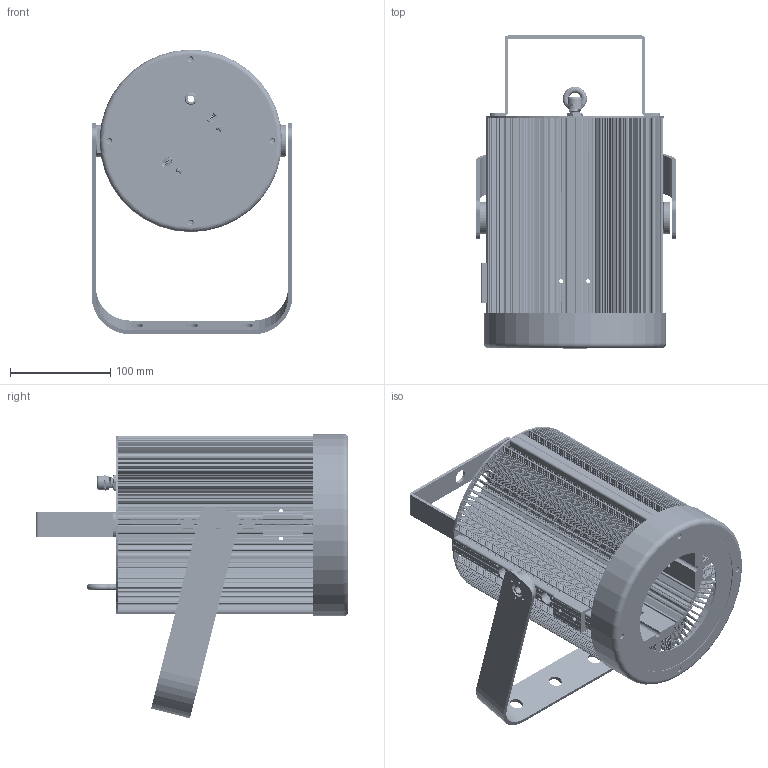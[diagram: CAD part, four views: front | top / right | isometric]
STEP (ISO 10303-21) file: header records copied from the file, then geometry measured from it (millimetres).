
FILE_DESCRIPTION (( 'STEP AP214' ), '1' );
FILE_NAME ('定制场灯（无折菲）.STEP', '2025-07-28T00:54:29', ( '' ), ( '' ), 'SwSTEP 2.0', 'SolidWorks 2023', '' );
FILE_SCHEMA (( 'AUTOMOTIVE_DESIGN' ));
Length unit declared in the file: millimetre
Products named in the file (23): DT-0_^CD-B_ASM_cd-b0626_asm(2)_定制场灯; M12 Kablo Rakoru.stp; M3X10-0001^200W0001_ASM_CD-B_ASM_cd-b0626_asm(2)_定制场灯; QGB-4_^CD-B_ASM_cd-b0626_asm(2)_定制场灯; 20001^200W0001_ASM_CD-B_ASM_cd-b0626_asm(2)_定制场灯; M3X12-0001^200W0001_ASM_CD-B_ASM_cd-b0626_asm(2)_定制场灯; TS-41_^CD-B_ASM_cd-b0626_asm(2)_定制场灯; JQ-44^CD-B_ASM_cd-b0626_asm(2)_定制场灯; TISHOU2^CD-B_ASM_cd-b0626_asm(2)_定制场灯; 零件1^定制场灯; CL-TS_^CD-B_ASM_cd-b0626_asm(2)_定制场灯; LZ-24^CD-B_ASM_cd-b0626_asm(2)_定制场灯; LZ-48_^CD-B_ASM_cd-b0626_asm(2)_定制场灯; 200W0001_ASM^CD-B_ASM_cd-b0626_asm(2)_定制场灯; HK-18_^CD-B_ASM_cd-b0626_asm(2)_定制场灯; 000^CD-B_ASM_cd-b0626_asm(2)_定制场灯; 定制场灯（无折菲）; cd-b0626_asm(2)^定制场灯; M3X4-0001^200W0001_ASM_CD-B_ASM_cd-b0626_asm(2)_定制场灯; K3-W_^CD-B_ASM_cd-b0626_asm(2)_定制场灯; DH-6^CD-B_ASM_cd-b0626_asm(2)_定制场灯; 10001^200W0001_ASM_CD-B_ASM_cd-b0626_asm(2)_定制场灯; CD-B_ASM^cd-b0626_asm(2)_定制场灯
Assembly tree (29 placements, depth 5):
  定制场灯（无折菲）
    cd-b0626_asm(2)^定制场灯
      CD-B_ASM^cd-b0626_asm(2)_定制场灯
        200W0001_ASM^CD-B_ASM_cd-b0626_asm(2)_定制场灯
          M3X4-0001^200W0001_ASM_CD-B_ASM_cd-b0626_asm(2)_定制场灯  x4
          10001^200W0001_ASM_CD-B_ASM_cd-b0626_asm(2)_定制场灯
          20001^200W0001_ASM_CD-B_ASM_cd-b0626_asm(2)_定制场灯
          M3X12-0001^200W0001_ASM_CD-B_ASM_cd-b0626_asm(2)_定制场灯
          M3X10-0001^200W0001_ASM_CD-B_ASM_cd-b0626_asm(2)_定制场灯
        DT-0_^CD-B_ASM_cd-b0626_asm(2)_定制场灯  x2
        000^CD-B_ASM_cd-b0626_asm(2)_定制场灯
        LZ-48_^CD-B_ASM_cd-b0626_asm(2)_定制场灯  x2
        QGB-4_^CD-B_ASM_cd-b0626_asm(2)_定制场灯
        K3-W_^CD-B_ASM_cd-b0626_asm(2)_定制场灯  x2
        LZ-24^CD-B_ASM_cd-b0626_asm(2)_定制场灯
        CL-TS_^CD-B_ASM_cd-b0626_asm(2)_定制场灯  x2
        JQ-44^CD-B_ASM_cd-b0626_asm(2)_定制场灯
        TS-41_^CD-B_ASM_cd-b0626_asm(2)_定制场灯
        DH-6^CD-B_ASM_cd-b0626_asm(2)_定制场灯
        HK-18_^CD-B_ASM_cd-b0626_asm(2)_定制场灯
        TISHOU2^CD-B_ASM_cd-b0626_asm(2)_定制场灯
    M12 Kablo Rakoru.stp
    零件1^定制场灯
Bounding box: 200 x 312 x 284.01 mm (x, y, z)
Volume: 1417839.4 mm3; surface area: 1354125.4 mm2
Topology: 26 solids, 30 shells, 8394 faces, 24953 edges, 16556 vertices
Faces by surface type: cylinder 4459, plane 3730, cone 115, bspline 56, torus 26, sphere 8
Full cylindrical faces by diameter (mm): 2.5 x2, 6.5 x2, 10.376 x1, 10.517 x4, 12 x6, 12.8 x1, 14 x2, 108 x1, 170 x1
Entity records: 213627 total; most frequent: CARTESIAN_POINT 44095, ORIENTED_EDGE 26510, DIRECTION 26358, EDGE_CURVE 13259, AXIS2_PLACEMENT_3D 9133, VERTEX_POINT 8783, LINE 8092, VECTOR 8092
